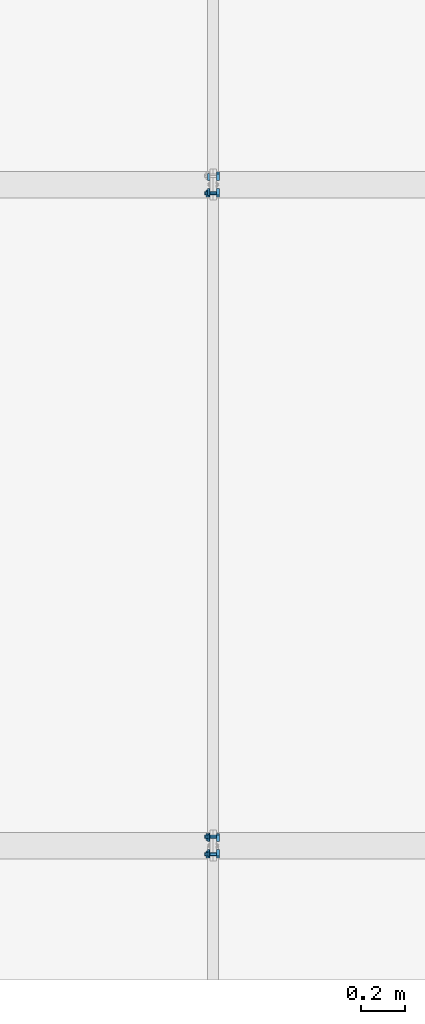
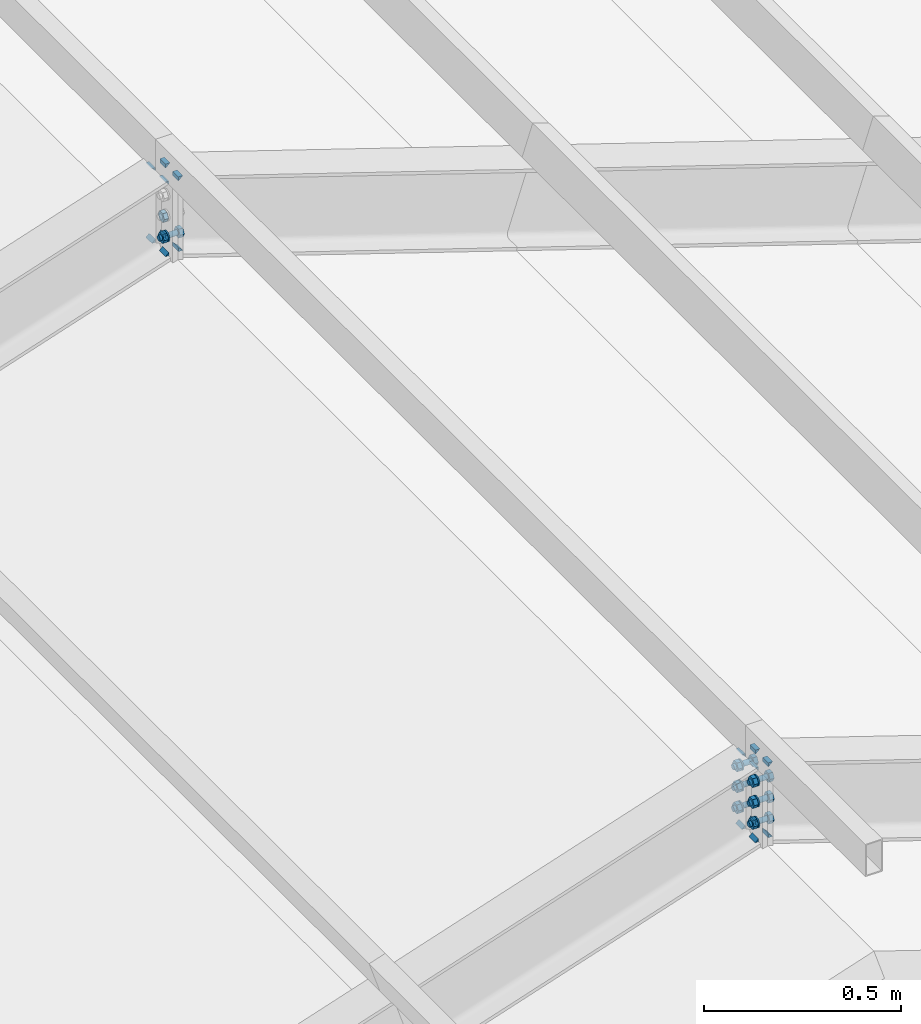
# One storey, part 26 of 53: 29 mechanical fasteners, 24 fasteners.
"""IFC4 building model written with IfcOpenShell, lengths in metres."""

from ifc_helpers import new_model, si_unit, frame, origin_with_axes, place, context, project, spatial, polyline, outline, extrude, type_object, element, save


model = new_model("IFC4")

# Units and contexts
model_context = context("Model", 3, precision=1e-05, world=origin_with_axes())
ifc_project = project(units=[si_unit("LENGTHUNIT", "METRE"), si_unit("AREAUNIT", "SQUARE_METRE"), si_unit("VOLUMEUNIT", "CUBIC_METRE"), si_unit("MASSUNIT", "GRAM", prefix="KILO"), si_unit("TIMEUNIT", "SECOND"), si_unit("PLANEANGLEUNIT", "RADIAN"), si_unit("SOLIDANGLEUNIT", "STERADIAN"), si_unit("THERMODYNAMICTEMPERATUREUNIT", "DEGREE_CELSIUS")], contexts=[model_context])

# Site, building, storey
placement_1 = place(None, origin_with_axes())
site = spatial("IfcSite", under=ifc_project, at=placement_1, Name="Italia", CompositionType="ELEMENT")
building = spatial("IfcBuilding", under=site, at=placement_1, Name="Capannone", CompositionType="ELEMENT")
storey_placement = place(None, frame((0.0, 0.0, 5.550000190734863), z_axis=(0.0, 0.0, 1.0), x_axis=(1.0, 0.0, 0.0)))
storey = spatial("IfcBuildingStorey", under=building, at=storey_placement, Name="Storey 1", CompositionType="ELEMENT", Elevation=5.550000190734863)

# Fasteners
fastener_type_1 = type_object("IfcFastenerType", Name="Collegamenti -1142_-1128 -1143_-1130 -1144_-1132 -1145_-1134 -1146_-1136 -1147_-1138", PredefinedType="WELD")
placement_2 = place(placement_1, origin_with_axes())
fastener_1_placement = place(placement_2, origin_with_axes())
element("IfcFastener", 1, at=fastener_1_placement, inside=storey, type_object=fastener_type_1, Name="Collegamenti -1142_-1128 -1143_-1130 -1144_-1132 -1145_-1134 -1146_-1136 -1147_-1138", context=model_context, shape_type="SweptSolid", body=[
    extrude(outline(polyline([(0.0, 0.0), (-0.0131736, 0.0127773), (0.0, 0.0127773), (0.0, 0.0)])), frame((7.01495, -0.04705, 8.07465), z_axis=(0.0, 1.0, 0.0), x_axis=(-1.0, 0.0, 0.0)), (0.0, 0.0, 1.0), 0.029),
])
fastener_type_2 = type_object("IfcFastenerType", Name="Collegamenti -1142_-1128 -1143_-1130 -1144_-1132 -1145_-1134 -1146_-1136 -1147_-1138", PredefinedType="WELD")
fastener_2_placement = place(placement_2, origin_with_axes())
element("IfcFastener", 2, at=fastener_2_placement, inside=storey, type_object=fastener_type_2, Name="Collegamenti -1142_-1128 -1143_-1130 -1144_-1132 -1145_-1134 -1146_-1136 -1147_-1138", context=model_context, shape_type="SweptSolid", body=[
    extrude(outline(polyline([(0.0, 0.0), (0.0131736, -0.0127783), (0.0, -0.0127783), (0.0, 0.0)])), frame((7.01495, -0.01805, 7.86811), z_axis=(0.0, -1.0, 0.0), x_axis=(1.0, 0.0, 0.0)), (0.0, 0.0, 1.0), 0.029),
])
fastener_type_3 = type_object("IfcFastenerType", Name="Collegamenti -1142_-1128 -1143_-1130 -1144_-1132 -1145_-1134 -1146_-1136 -1147_-1138", PredefinedType="WELD")
fastener_3_placement = place(placement_2, origin_with_axes())
element("IfcFastener", 3, at=fastener_3_placement, inside=storey, type_object=fastener_type_3, Name="Collegamenti -1142_-1128 -1143_-1130 -1144_-1132 -1145_-1134 -1146_-1136 -1147_-1138", context=model_context, shape_type="SweptSolid", body=[
    extrude(outline(polyline([(0.0, 0.0), (0.0131736, -0.0127783), (0.0, -0.0127783), (0.0, 0.0)])), frame((7.01495, 0.04705, 7.86811), z_axis=(0.0, -1.0, 0.0), x_axis=(1.0, 0.0, 0.0)), (0.0, 0.0, 1.0), 0.029),
])
fastener_type_4 = type_object("IfcFastenerType", Name="Collegamenti -1142_-1128 -1143_-1130 -1144_-1132 -1145_-1134 -1146_-1136 -1147_-1138", PredefinedType="WELD")
fastener_4_placement = place(placement_2, origin_with_axes())
element("IfcFastener", 4, at=fastener_4_placement, inside=storey, type_object=fastener_type_4, Name="Collegamenti -1142_-1128 -1143_-1130 -1144_-1132 -1145_-1134 -1146_-1136 -1147_-1138", context=model_context, shape_type="SweptSolid", body=[
    extrude(outline(polyline([(0.0, 0.0), (-0.0131736, 0.0127773), (0.0, 0.0127773), (0.0, 0.0)])), frame((7.01495, 0.01805, 8.07465), z_axis=(0.0, 1.0, 0.0), x_axis=(-1.0, 0.0, 0.0)), (0.0, 0.0, 1.0), 0.029),
])
fastener_type_5 = type_object("IfcFastenerType", Name="Collegamenti -1142_-1128 -1143_-1130 -1144_-1132 -1145_-1134 -1146_-1136 -1147_-1138", PredefinedType="WELD")
fastener_5_placement = place(placement_2, origin_with_axes())
element("IfcFastener", 5, at=fastener_5_placement, inside=storey, type_object=fastener_type_5, Name="Collegamenti -1142_-1128 -1143_-1130 -1144_-1132 -1145_-1134 -1146_-1136 -1147_-1138", context=model_context, shape_type="SweptSolid", body=[
    extrude(outline(polyline([(0.0, 0.0), (-0.0131736, 0.0127773), (0.0, 0.0127773), (0.0, 0.0)])), frame((7.01495, -0.04705, 8.07465), z_axis=(0.0, 1.0, 0.0), x_axis=(-1.0, 0.0, 0.0)), (0.0, 0.0, 1.0), 0.029),
])
fastener_type_6 = type_object("IfcFastenerType", Name="Collegamenti -1142_-1128 -1143_-1130 -1144_-1132 -1145_-1134 -1146_-1136 -1147_-1138", PredefinedType="WELD")
fastener_6_placement = place(placement_2, origin_with_axes())
element("IfcFastener", 6, at=fastener_6_placement, inside=storey, type_object=fastener_type_6, Name="Collegamenti -1142_-1128 -1143_-1130 -1144_-1132 -1145_-1134 -1146_-1136 -1147_-1138", context=model_context, shape_type="SweptSolid", body=[
    extrude(outline(polyline([(0.0, 0.0), (0.0131736, -0.0127783), (0.0, -0.0127783), (0.0, 0.0)])), frame((7.01495, -0.01805, 7.86811), z_axis=(0.0, -1.0, 0.0), x_axis=(1.0, 0.0, 0.0)), (0.0, 0.0, 1.0), 0.029),
])
fastener_type_7 = type_object("IfcFastenerType", Name="Collegamenti -1142_-1128 -1143_-1130 -1144_-1132 -1145_-1134 -1146_-1136 -1147_-1138", PredefinedType="WELD")
fastener_7_placement = place(placement_2, origin_with_axes())
element("IfcFastener", 7, at=fastener_7_placement, inside=storey, type_object=fastener_type_7, Name="Collegamenti -1142_-1128 -1143_-1130 -1144_-1132 -1145_-1134 -1146_-1136 -1147_-1138", context=model_context, shape_type="SweptSolid", body=[
    extrude(outline(polyline([(0.0, 0.0), (0.0131736, -0.0127783), (0.0, -0.0127783), (0.0, 0.0)])), frame((7.01495, 0.04705, 7.86811), z_axis=(0.0, -1.0, 0.0), x_axis=(1.0, 0.0, 0.0)), (0.0, 0.0, 1.0), 0.029),
])
fastener_type_8 = type_object("IfcFastenerType", Name="Collegamenti -1142_-1128 -1143_-1130 -1144_-1132 -1145_-1134 -1146_-1136 -1147_-1138", PredefinedType="WELD")
fastener_8_placement = place(placement_2, origin_with_axes())
element("IfcFastener", 8, at=fastener_8_placement, inside=storey, type_object=fastener_type_8, Name="Collegamenti -1142_-1128 -1143_-1130 -1144_-1132 -1145_-1134 -1146_-1136 -1147_-1138", context=model_context, shape_type="SweptSolid", body=[
    extrude(outline(polyline([(0.0, 0.0), (-0.0131736, 0.0127773), (0.0, 0.0127773), (0.0, 0.0)])), frame((7.01495, 0.01805, 8.07465), z_axis=(0.0, 1.0, 0.0), x_axis=(-1.0, 0.0, 0.0)), (0.0, 0.0, 1.0), 0.029),
])
fastener_type_9 = type_object("IfcFastenerType", Name="Collegamenti -1142_-1128 -1143_-1130 -1144_-1132 -1145_-1134 -1146_-1136 -1147_-1138", PredefinedType="WELD")
fastener_9_placement = place(placement_2, origin_with_axes())
element("IfcFastener", 9, at=fastener_9_placement, inside=storey, type_object=fastener_type_9, Name="Collegamenti -1142_-1128 -1143_-1130 -1144_-1132 -1145_-1134 -1146_-1136 -1147_-1138", context=model_context, shape_type="SweptSolid", body=[
    extrude(outline(polyline([(0.0, 0.0), (-0.00982666, -0.00953197), (0.0, -0.00953197), (0.0, 0.0)])), frame((6.98495, 0.05005, 7.86497), z_axis=(0.0, -1.0, 0.0), x_axis=(1.0, 0.0, 0.0)), (0.0, 0.0, 1.0), 0.032),
])
fastener_type_10 = type_object("IfcFastenerType", Name="Collegamenti -1142_-1128 -1143_-1130 -1144_-1132 -1145_-1134 -1146_-1136 -1147_-1138", PredefinedType="WELD")
fastener_10_placement = place(placement_2, origin_with_axes())
element("IfcFastener", 10, at=fastener_10_placement, inside=storey, type_object=fastener_type_10, Name="Collegamenti -1142_-1128 -1143_-1130 -1144_-1132 -1145_-1134 -1146_-1136 -1147_-1138", context=model_context, shape_type="SweptSolid", body=[
    extrude(outline(polyline([(0.0, 0.0), (0.00982666, 0.00953197), (0.0, 0.00953197), (0.0, 0.0)])), frame((6.98495, 0.01805, 8.0778), z_axis=(0.0, 1.0, 0.0), x_axis=(-1.0, 0.0, 0.0)), (0.0, 0.0, 1.0), 0.032),
])
fastener_type_11 = type_object("IfcFastenerType", Name="Collegamenti -1142_-1128 -1143_-1130 -1144_-1132 -1145_-1134 -1146_-1136 -1147_-1138", PredefinedType="WELD")
fastener_11_placement = place(placement_2, origin_with_axes())
element("IfcFastener", 11, at=fastener_11_placement, inside=storey, type_object=fastener_type_11, Name="Collegamenti -1142_-1128 -1143_-1130 -1144_-1132 -1145_-1134 -1146_-1136 -1147_-1138", context=model_context, shape_type="SweptSolid", body=[
    extrude(outline(polyline([(0.0, 0.0), (0.00982666, 0.00953197), (0.0, 0.00953197), (0.0, 0.0)])), frame((6.98495, -0.05005, 8.0778), z_axis=(0.0, 1.0, 0.0), x_axis=(-1.0, 0.0, 0.0)), (0.0, 0.0, 1.0), 0.032),
])
fastener_type_12 = type_object("IfcFastenerType", Name="Collegamenti -1142_-1128 -1143_-1130 -1144_-1132 -1145_-1134 -1146_-1136 -1147_-1138", PredefinedType="WELD")
fastener_12_placement = place(placement_2, origin_with_axes())
element("IfcFastener", 12, at=fastener_12_placement, inside=storey, type_object=fastener_type_12, Name="Collegamenti -1142_-1128 -1143_-1130 -1144_-1132 -1145_-1134 -1146_-1136 -1147_-1138", context=model_context, shape_type="SweptSolid", body=[
    extrude(outline(polyline([(0.0, 0.0), (-0.00982666, -0.00953197), (0.0, -0.00953197), (0.0, 0.0)])), frame((6.98495, -0.01805, 7.86497), z_axis=(0.0, -1.0, 0.0), x_axis=(1.0, 0.0, 0.0)), (0.0, 0.0, 1.0), 0.032),
])

# Mechanical fasteners
mechanical_fastener_type_1 = type_object("IfcMechanicalFastenerType", Name="Collegamenti -1142_-1128 -1143_-1130 -1144_-1132 -1145_-1134 -1146_-1136 -1147_-1138", PredefinedType="BOLT")
mechanical_fastener_1_placement = place(placement_2, origin_with_axes())
element("IfcMechanicalFastener", 13, at=mechanical_fastener_1_placement, inside=storey, type_object=mechanical_fastener_type_1, Name="Collegamenti -1142_-1128 -1143_-1130 -1144_-1132 -1145_-1134 -1146_-1136 -1147_-1138", NominalDiameter=0.016, context=model_context, shape_type="SweptSolid", body=[
    extrude(outline(polyline([(0.0, 0.0), (-0.016, 0.0), (-0.024, 0.0138564), (-0.016, 0.0277128), (0.0, 0.0277128), (0.008, 0.0138564), (0.0, 0.0)])), frame((7.015, -0.032, 7.89746), z_axis=(1.0, 0.0, 0.0), x_axis=(0.0, 1.0, 0.0)), (0.0, 0.0, 1.0), 0.0128002),
])
mechanical_fastener_type_2 = type_object("IfcMechanicalFastenerType", Name="Collegamenti -1142_-1128 -1143_-1130 -1144_-1132 -1145_-1134 -1146_-1136 -1147_-1138", PredefinedType="BOLT")
mechanical_fastener_2_placement = place(placement_2, origin_with_axes())
element("IfcMechanicalFastener", 14, at=mechanical_fastener_2_placement, inside=storey, type_object=mechanical_fastener_type_2, Name="Collegamenti -1142_-1128 -1143_-1130 -1144_-1132 -1145_-1134 -1146_-1136 -1147_-1138", NominalDiameter=0.016, context=model_context, shape_type="SweptSolid", body=[
    extrude(outline(polyline([(0.0, 0.0), (-0.000272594, -0.00207043), (-0.0010718, -0.00400019), (-0.00234315, -0.00565672), (-0.004, -0.00692797), (-0.00592945, -0.00772762), (-0.008, -0.0079999), (-0.0100706, -0.00772762), (-0.012, -0.00692797), (-0.0136569, -0.00565672), (-0.0149282, -0.00400019), (-0.0157274, -0.00207043), (-0.016, 0.0), (-0.0157274, 0.00207043), (-0.0149282, 0.00400019), (-0.0136569, 0.00565672), (-0.012, 0.00692797), (-0.0100706, 0.00772762), (-0.008, 0.0079999), (-0.00592945, 0.00772762), (-0.004, 0.00692797), (-0.00234314, 0.00565672), (-0.0010718, 0.00400019), (-0.000272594, 0.00207043), (0.0, 0.0)])), frame((6.961, -0.032, 7.91131), z_axis=(1.0, 0.0, 0.0), x_axis=(0.0, 1.0, 0.0)), (0.0, 0.0, 1.0), 0.0539999),
])
mechanical_fastener_type_3 = type_object("IfcMechanicalFastenerType", Name="Collegamenti -1142_-1128 -1143_-1130 -1144_-1132 -1145_-1134 -1146_-1136 -1147_-1138", PredefinedType="BOLT")
mechanical_fastener_3_placement = place(placement_2, origin_with_axes())
element("IfcMechanicalFastener", 15, at=mechanical_fastener_3_placement, inside=storey, type_object=mechanical_fastener_type_3, Name="Collegamenti -1142_-1128 -1143_-1130 -1144_-1132 -1145_-1134 -1146_-1136 -1147_-1138", NominalDiameter=0.016, context=model_context, shape_type="SweptSolid", body=[
    extrude(outline(polyline([(0.0, 0.0), (-0.016, 0.0), (-0.024, 0.0138564), (-0.016, 0.0277128), (0.0, 0.0277128), (0.008, 0.0138564), (0.0, 0.0)])), frame((6.9682, -0.032, 7.89746), z_axis=(1.0, 0.0, 0.0), x_axis=(0.0, 1.0, 0.0)), (0.0, 0.0, 1.0), 0.0127997),
])
mechanical_fastener_type_4 = type_object("IfcMechanicalFastenerType", Name="Collegamenti -1142_-1128 -1143_-1130 -1144_-1132 -1145_-1134 -1146_-1136 -1147_-1138", PredefinedType="BOLT")
mechanical_fastener_4_placement = place(placement_2, origin_with_axes())
element("IfcMechanicalFastener", 16, at=mechanical_fastener_4_placement, inside=storey, type_object=mechanical_fastener_type_4, Name="Collegamenti -1142_-1128 -1143_-1130 -1144_-1132 -1145_-1134 -1146_-1136 -1147_-1138", NominalDiameter=0.032, context=model_context, shape_type="SweptSolid", body=[
    extrude(outline(polyline([(0.0, 0.0), (-0.000545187, -0.00414133), (-0.00214359, -0.0079999), (-0.00468629, -0.0113139), (-0.008, -0.0138564), (-0.0118589, -0.0154548), (-0.016, -0.0159998), (-0.0201411, -0.0154548), (-0.024, -0.0138564), (-0.0273137, -0.0113139), (-0.0298564, -0.0079999), (-0.0314548, -0.00414133), (-0.032, 0.0), (-0.0314548, 0.00414133), (-0.0298564, 0.0079999), (-0.0273137, 0.0113139), (-0.024, 0.0138564), (-0.0201411, 0.0154548), (-0.016, 0.0159998), (-0.0118589, 0.0154548), (-0.008, 0.0138564), (-0.00468629, 0.0113139), (-0.00214359, 0.0079999), (-0.000545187, 0.00414133), (0.0, 0.0)])), frame((6.981, -0.024, 7.91131), z_axis=(1.0, 0.0, 0.0), x_axis=(0.0, 1.0, 0.0)), (0.0, 0.0, 1.0), 0.00400019),
])
mechanical_fastener_type_5 = type_object("IfcMechanicalFastenerType", Name="Collegamenti -1142_-1128 -1143_-1130 -1144_-1132 -1145_-1134 -1146_-1136 -1147_-1138", PredefinedType="BOLT")
mechanical_fastener_5_placement = place(placement_2, origin_with_axes())
element("IfcMechanicalFastener", 17, at=mechanical_fastener_5_placement, inside=storey, type_object=mechanical_fastener_type_5, Name="Collegamenti -1142_-1128 -1143_-1130 -1144_-1132 -1145_-1134 -1146_-1136 -1147_-1138", NominalDiameter=0.016, context=model_context, shape_type="SweptSolid", body=[
    extrude(outline(polyline([(0.0, 0.0), (-0.016, 0.0), (-0.024, 0.0138564), (-0.016, 0.0277128), (0.0, 0.0277128), (0.008, 0.0138564), (0.0, 0.0)])), frame((7.015, 0.048, 7.89746), z_axis=(1.0, 0.0, 0.0), x_axis=(0.0, 1.0, 0.0)), (0.0, 0.0, 1.0), 0.0128002),
])
mechanical_fastener_type_6 = type_object("IfcMechanicalFastenerType", Name="Collegamenti -1142_-1128 -1143_-1130 -1144_-1132 -1145_-1134 -1146_-1136 -1147_-1138", PredefinedType="BOLT")
mechanical_fastener_6_placement = place(placement_2, origin_with_axes())
element("IfcMechanicalFastener", 18, at=mechanical_fastener_6_placement, inside=storey, type_object=mechanical_fastener_type_6, Name="Collegamenti -1142_-1128 -1143_-1130 -1144_-1132 -1145_-1134 -1146_-1136 -1147_-1138", NominalDiameter=0.016, context=model_context, shape_type="SweptSolid", body=[
    extrude(outline(polyline([(0.0, 0.0), (-0.000272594, -0.00207043), (-0.0010718, -0.00400019), (-0.00234315, -0.00565672), (-0.004, -0.00692797), (-0.00592945, -0.00772762), (-0.008, -0.0079999), (-0.0100706, -0.00772762), (-0.012, -0.00692797), (-0.0136569, -0.00565672), (-0.0149282, -0.00400019), (-0.0157274, -0.00207043), (-0.016, 0.0), (-0.0157274, 0.00207043), (-0.0149282, 0.00400019), (-0.0136569, 0.00565672), (-0.012, 0.00692797), (-0.0100706, 0.00772762), (-0.008, 0.0079999), (-0.00592945, 0.00772762), (-0.004, 0.00692797), (-0.00234314, 0.00565672), (-0.0010718, 0.00400019), (-0.000272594, 0.00207043), (0.0, 0.0)])), frame((6.961, 0.048, 7.91131), z_axis=(1.0, 0.0, 0.0), x_axis=(0.0, 1.0, 0.0)), (0.0, 0.0, 1.0), 0.0539999),
])
mechanical_fastener_type_7 = type_object("IfcMechanicalFastenerType", Name="Collegamenti -1142_-1128 -1143_-1130 -1144_-1132 -1145_-1134 -1146_-1136 -1147_-1138", PredefinedType="BOLT")
mechanical_fastener_7_placement = place(placement_2, origin_with_axes())
element("IfcMechanicalFastener", 19, at=mechanical_fastener_7_placement, inside=storey, type_object=mechanical_fastener_type_7, Name="Collegamenti -1142_-1128 -1143_-1130 -1144_-1132 -1145_-1134 -1146_-1136 -1147_-1138", NominalDiameter=0.016, context=model_context, shape_type="SweptSolid", body=[
    extrude(outline(polyline([(0.0, 0.0), (-0.016, 0.0), (-0.024, 0.0138564), (-0.016, 0.0277128), (0.0, 0.0277128), (0.008, 0.0138564), (0.0, 0.0)])), frame((6.9682, 0.048, 7.89746), z_axis=(1.0, 0.0, 0.0), x_axis=(0.0, 1.0, 0.0)), (0.0, 0.0, 1.0), 0.0127997),
])
mechanical_fastener_type_8 = type_object("IfcMechanicalFastenerType", Name="Collegamenti -1142_-1128 -1143_-1130 -1144_-1132 -1145_-1134 -1146_-1136 -1147_-1138", PredefinedType="BOLT")
mechanical_fastener_8_placement = place(placement_2, origin_with_axes())
element("IfcMechanicalFastener", 20, at=mechanical_fastener_8_placement, inside=storey, type_object=mechanical_fastener_type_8, Name="Collegamenti -1142_-1128 -1143_-1130 -1144_-1132 -1145_-1134 -1146_-1136 -1147_-1138", NominalDiameter=0.032, context=model_context, shape_type="SweptSolid", body=[
    extrude(outline(polyline([(0.0, 0.0), (-0.000545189, -0.00414133), (-0.0021436, -0.0079999), (-0.0046863, -0.0113139), (-0.008, -0.0138564), (-0.0118589, -0.0154548), (-0.016, -0.0159998), (-0.0201411, -0.0154548), (-0.024, -0.0138564), (-0.0273137, -0.0113139), (-0.0298564, -0.0079999), (-0.0314548, -0.00414133), (-0.032, 0.0), (-0.0314548, 0.00414133), (-0.0298564, 0.0079999), (-0.0273137, 0.0113139), (-0.024, 0.0138564), (-0.0201411, 0.0154548), (-0.016, 0.0159998), (-0.0118589, 0.0154548), (-0.008, 0.0138564), (-0.00468629, 0.0113139), (-0.00214359, 0.0079999), (-0.000545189, 0.00414133), (0.0, 0.0)])), frame((6.981, 0.056, 7.91131), z_axis=(1.0, 0.0, 0.0), x_axis=(0.0, 1.0, 0.0)), (0.0, 0.0, 1.0), 0.00400019),
])
mechanical_fastener_type_9 = type_object("IfcMechanicalFastenerType", Name="Collegamenti -1142_-1128 -1143_-1130 -1144_-1132 -1145_-1134 -1146_-1136 -1147_-1138", PredefinedType="BOLT")
mechanical_fastener_9_placement = place(placement_2, origin_with_axes())
element("IfcMechanicalFastener", 21, at=mechanical_fastener_9_placement, inside=storey, type_object=mechanical_fastener_type_9, Name="Collegamenti -1142_-1128 -1143_-1130 -1144_-1132 -1145_-1134 -1146_-1136 -1147_-1138", NominalDiameter=0.016, context=model_context, shape_type="SweptSolid", body=[
    extrude(outline(polyline([(0.0, 0.0), (-0.016, 0.0), (-0.024, 0.0138564), (-0.016, 0.0277128), (0.0, 0.0277128), (0.008, 0.0138564), (0.0, 0.0)])), frame((7.015, -0.032, 7.96246), z_axis=(1.0, 0.0, 0.0), x_axis=(0.0, 1.0, 0.0)), (0.0, 0.0, 1.0), 0.0128002),
])
mechanical_fastener_type_10 = type_object("IfcMechanicalFastenerType", Name="Collegamenti -1142_-1128 -1143_-1130 -1144_-1132 -1145_-1134 -1146_-1136 -1147_-1138", PredefinedType="BOLT")
mechanical_fastener_10_placement = place(placement_2, origin_with_axes())
element("IfcMechanicalFastener", 22, at=mechanical_fastener_10_placement, inside=storey, type_object=mechanical_fastener_type_10, Name="Collegamenti -1142_-1128 -1143_-1130 -1144_-1132 -1145_-1134 -1146_-1136 -1147_-1138", NominalDiameter=0.016, context=model_context, shape_type="SweptSolid", body=[
    extrude(outline(polyline([(0.0, 0.0), (-0.000272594, -0.00207043), (-0.0010718, -0.00400019), (-0.00234315, -0.00565672), (-0.004, -0.00692797), (-0.00592945, -0.00772762), (-0.008, -0.0079999), (-0.0100706, -0.00772762), (-0.012, -0.00692797), (-0.0136569, -0.00565672), (-0.0149282, -0.00400019), (-0.0157274, -0.00207043), (-0.016, 0.0), (-0.0157274, 0.00207043), (-0.0149282, 0.00400019), (-0.0136569, 0.00565672), (-0.012, 0.00692797), (-0.0100706, 0.00772762), (-0.008, 0.0079999), (-0.00592945, 0.00772762), (-0.004, 0.00692797), (-0.00234314, 0.00565672), (-0.0010718, 0.00400019), (-0.000272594, 0.00207043), (0.0, 0.0)])), frame((6.961, -0.032, 7.97631), z_axis=(1.0, 0.0, 0.0), x_axis=(0.0, 1.0, 0.0)), (0.0, 0.0, 1.0), 0.0539999),
])
mechanical_fastener_type_11 = type_object("IfcMechanicalFastenerType", Name="Collegamenti -1142_-1128 -1143_-1130 -1144_-1132 -1145_-1134 -1146_-1136 -1147_-1138", PredefinedType="BOLT")
mechanical_fastener_11_placement = place(placement_2, origin_with_axes())
element("IfcMechanicalFastener", 23, at=mechanical_fastener_11_placement, inside=storey, type_object=mechanical_fastener_type_11, Name="Collegamenti -1142_-1128 -1143_-1130 -1144_-1132 -1145_-1134 -1146_-1136 -1147_-1138", NominalDiameter=0.016, context=model_context, shape_type="SweptSolid", body=[
    extrude(outline(polyline([(0.0, 0.0), (-0.016, 0.0), (-0.024, 0.0138564), (-0.016, 0.0277128), (0.0, 0.0277128), (0.008, 0.0138564), (0.0, 0.0)])), frame((6.9682, -0.032, 7.96246), z_axis=(1.0, 0.0, 0.0), x_axis=(0.0, 1.0, 0.0)), (0.0, 0.0, 1.0), 0.0127997),
])
mechanical_fastener_type_12 = type_object("IfcMechanicalFastenerType", Name="Collegamenti -1142_-1128 -1143_-1130 -1144_-1132 -1145_-1134 -1146_-1136 -1147_-1138", PredefinedType="BOLT")
mechanical_fastener_12_placement = place(placement_2, origin_with_axes())
element("IfcMechanicalFastener", 24, at=mechanical_fastener_12_placement, inside=storey, type_object=mechanical_fastener_type_12, Name="Collegamenti -1142_-1128 -1143_-1130 -1144_-1132 -1145_-1134 -1146_-1136 -1147_-1138", NominalDiameter=0.032, context=model_context, shape_type="SweptSolid", body=[
    extrude(outline(polyline([(0.0, 0.0), (-0.000545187, -0.00414133), (-0.00214359, -0.0079999), (-0.00468629, -0.0113139), (-0.008, -0.0138564), (-0.0118589, -0.0154548), (-0.016, -0.0159998), (-0.0201411, -0.0154548), (-0.024, -0.0138564), (-0.0273137, -0.0113139), (-0.0298564, -0.0079999), (-0.0314548, -0.00414133), (-0.032, 0.0), (-0.0314548, 0.00414133), (-0.0298564, 0.0079999), (-0.0273137, 0.0113139), (-0.024, 0.0138564), (-0.0201411, 0.0154548), (-0.016, 0.0159998), (-0.0118589, 0.0154548), (-0.008, 0.0138564), (-0.00468629, 0.0113139), (-0.00214359, 0.0079999), (-0.000545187, 0.00414133), (0.0, 0.0)])), frame((6.981, -0.024, 7.97631), z_axis=(1.0, 0.0, 0.0), x_axis=(0.0, 1.0, 0.0)), (0.0, 0.0, 1.0), 0.00400019),
])
mechanical_fastener_type_13 = type_object("IfcMechanicalFastenerType", Name="Collegamenti -1142_-1128 -1143_-1130 -1144_-1132 -1145_-1134 -1146_-1136 -1147_-1138", PredefinedType="BOLT")
mechanical_fastener_13_placement = place(placement_2, origin_with_axes())
element("IfcMechanicalFastener", 25, at=mechanical_fastener_13_placement, inside=storey, type_object=mechanical_fastener_type_13, Name="Collegamenti -1142_-1128 -1143_-1130 -1144_-1132 -1145_-1134 -1146_-1136 -1147_-1138", NominalDiameter=0.016, context=model_context, shape_type="SweptSolid", body=[
    extrude(outline(polyline([(0.0, 0.0), (-0.016, 0.0), (-0.024, 0.0138564), (-0.016, 0.0277128), (0.0, 0.0277128), (0.008, 0.0138564), (0.0, 0.0)])), frame((7.015, 0.048, 7.96246), z_axis=(1.0, 0.0, 0.0), x_axis=(0.0, 1.0, 0.0)), (0.0, 0.0, 1.0), 0.0128002),
])
mechanical_fastener_type_14 = type_object("IfcMechanicalFastenerType", Name="Collegamenti -1142_-1128 -1143_-1130 -1144_-1132 -1145_-1134 -1146_-1136 -1147_-1138", PredefinedType="BOLT")
mechanical_fastener_14_placement = place(placement_2, origin_with_axes())
element("IfcMechanicalFastener", 26, at=mechanical_fastener_14_placement, inside=storey, type_object=mechanical_fastener_type_14, Name="Collegamenti -1142_-1128 -1143_-1130 -1144_-1132 -1145_-1134 -1146_-1136 -1147_-1138", NominalDiameter=0.016, context=model_context, shape_type="SweptSolid", body=[
    extrude(outline(polyline([(0.0, 0.0), (-0.000272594, -0.00207043), (-0.0010718, -0.00400019), (-0.00234315, -0.00565672), (-0.004, -0.00692797), (-0.00592945, -0.00772762), (-0.008, -0.0079999), (-0.0100706, -0.00772762), (-0.012, -0.00692797), (-0.0136569, -0.00565672), (-0.0149282, -0.00400019), (-0.0157274, -0.00207043), (-0.016, 0.0), (-0.0157274, 0.00207043), (-0.0149282, 0.00400019), (-0.0136569, 0.00565672), (-0.012, 0.00692797), (-0.0100706, 0.00772762), (-0.008, 0.0079999), (-0.00592945, 0.00772762), (-0.004, 0.00692797), (-0.00234314, 0.00565672), (-0.0010718, 0.00400019), (-0.000272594, 0.00207043), (0.0, 0.0)])), frame((6.961, 0.048, 7.97631), z_axis=(1.0, 0.0, 0.0), x_axis=(0.0, 1.0, 0.0)), (0.0, 0.0, 1.0), 0.0539999),
])
mechanical_fastener_type_15 = type_object("IfcMechanicalFastenerType", Name="Collegamenti -1142_-1128 -1143_-1130 -1144_-1132 -1145_-1134 -1146_-1136 -1147_-1138", PredefinedType="BOLT")
mechanical_fastener_15_placement = place(placement_2, origin_with_axes())
element("IfcMechanicalFastener", 27, at=mechanical_fastener_15_placement, inside=storey, type_object=mechanical_fastener_type_15, Name="Collegamenti -1142_-1128 -1143_-1130 -1144_-1132 -1145_-1134 -1146_-1136 -1147_-1138", NominalDiameter=0.016, context=model_context, shape_type="SweptSolid", body=[
    extrude(outline(polyline([(0.0, 0.0), (-0.016, 0.0), (-0.024, 0.0138564), (-0.016, 0.0277128), (0.0, 0.0277128), (0.008, 0.0138564), (0.0, 0.0)])), frame((6.9682, 0.048, 7.96246), z_axis=(1.0, 0.0, 0.0), x_axis=(0.0, 1.0, 0.0)), (0.0, 0.0, 1.0), 0.0127997),
])
mechanical_fastener_type_16 = type_object("IfcMechanicalFastenerType", Name="Collegamenti -1142_-1128 -1143_-1130 -1144_-1132 -1145_-1134 -1146_-1136 -1147_-1138", PredefinedType="BOLT")
mechanical_fastener_16_placement = place(placement_2, origin_with_axes())
element("IfcMechanicalFastener", 28, at=mechanical_fastener_16_placement, inside=storey, type_object=mechanical_fastener_type_16, Name="Collegamenti -1142_-1128 -1143_-1130 -1144_-1132 -1145_-1134 -1146_-1136 -1147_-1138", NominalDiameter=0.032, context=model_context, shape_type="SweptSolid", body=[
    extrude(outline(polyline([(0.0, 0.0), (-0.000545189, -0.00414133), (-0.0021436, -0.0079999), (-0.0046863, -0.0113139), (-0.008, -0.0138564), (-0.0118589, -0.0154548), (-0.016, -0.0159998), (-0.0201411, -0.0154548), (-0.024, -0.0138564), (-0.0273137, -0.0113139), (-0.0298564, -0.0079999), (-0.0314548, -0.00414133), (-0.032, 0.0), (-0.0314548, 0.00414133), (-0.0298564, 0.0079999), (-0.0273137, 0.0113139), (-0.024, 0.0138564), (-0.0201411, 0.0154548), (-0.016, 0.0159998), (-0.0118589, 0.0154548), (-0.008, 0.0138564), (-0.00468629, 0.0113139), (-0.00214359, 0.0079999), (-0.000545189, 0.00414133), (0.0, 0.0)])), frame((6.981, 0.056, 7.97631), z_axis=(1.0, 0.0, 0.0), x_axis=(0.0, 1.0, 0.0)), (0.0, 0.0, 1.0), 0.00400019),
])
mechanical_fastener_type_17 = type_object("IfcMechanicalFastenerType", Name="Collegamenti -1142_-1128 -1143_-1130 -1144_-1132 -1145_-1134 -1146_-1136 -1147_-1138", PredefinedType="BOLT")
mechanical_fastener_17_placement = place(placement_2, origin_with_axes())
element("IfcMechanicalFastener", 29, at=mechanical_fastener_17_placement, inside=storey, type_object=mechanical_fastener_type_17, Name="Collegamenti -1142_-1128 -1143_-1130 -1144_-1132 -1145_-1134 -1146_-1136 -1147_-1138", NominalDiameter=0.0159996, context=model_context, shape_type="SweptSolid", body=[
    extrude(outline(polyline([(0.0, 0.0), (-0.016, 0.0), (-0.024, 0.0138559), (-0.016, 0.0277128), (0.0, 0.0277128), (0.008, 0.0138559), (0.0, 0.0)])), frame((7.015, -0.032, 8.02746), z_axis=(1.0, 0.0, 0.0), x_axis=(0.0, 1.0, 0.0)), (0.0, 0.0, 1.0), 0.0128002),
])
mechanical_fastener_type_18 = type_object("IfcMechanicalFastenerType", Name="Collegamenti -1142_-1128 -1143_-1130 -1144_-1132 -1145_-1134 -1146_-1136 -1147_-1138", PredefinedType="BOLT")
mechanical_fastener_18_placement = place(placement_2, origin_with_axes())
element("IfcMechanicalFastener", 30, at=mechanical_fastener_18_placement, inside=storey, type_object=mechanical_fastener_type_18, Name="Collegamenti -1142_-1128 -1143_-1130 -1144_-1132 -1145_-1134 -1146_-1136 -1147_-1138", NominalDiameter=0.016, context=model_context, shape_type="SweptSolid", body=[
    extrude(outline(polyline([(0.0, 0.0), (-0.000272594, -0.00207043), (-0.0010718, -0.00399971), (-0.00234315, -0.0056572), (-0.004, -0.00692844), (-0.00592945, -0.00772762), (-0.008, -0.00800037), (-0.0100706, -0.00772762), (-0.012, -0.00692844), (-0.0136569, -0.0056572), (-0.0149282, -0.00399971), (-0.0157274, -0.00207043), (-0.016, 0.0), (-0.0157274, 0.00207043), (-0.0149282, 0.00399971), (-0.0136569, 0.0056572), (-0.012, 0.00692844), (-0.0100706, 0.00772762), (-0.008, 0.00800037), (-0.00592945, 0.00772762), (-0.004, 0.00692844), (-0.00234314, 0.0056572), (-0.0010718, 0.00399971), (-0.000272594, 0.00207043), (0.0, 0.0)])), frame((6.961, -0.032, 8.04131), z_axis=(1.0, 0.0, 0.0), x_axis=(0.0, 1.0, 0.0)), (0.0, 0.0, 1.0), 0.0539999),
])
mechanical_fastener_type_19 = type_object("IfcMechanicalFastenerType", Name="Collegamenti -1142_-1128 -1143_-1130 -1144_-1132 -1145_-1134 -1146_-1136 -1147_-1138", PredefinedType="BOLT")
mechanical_fastener_19_placement = place(placement_2, origin_with_axes())
element("IfcMechanicalFastener", 31, at=mechanical_fastener_19_placement, inside=storey, type_object=mechanical_fastener_type_19, Name="Collegamenti -1142_-1128 -1143_-1130 -1144_-1132 -1145_-1134 -1146_-1136 -1147_-1138", NominalDiameter=0.0159996, context=model_context, shape_type="SweptSolid", body=[
    extrude(outline(polyline([(0.0, 0.0), (-0.016, 0.0), (-0.024, 0.0138559), (-0.016, 0.0277128), (0.0, 0.0277128), (0.008, 0.0138559), (0.0, 0.0)])), frame((6.9682, -0.032, 8.02746), z_axis=(1.0, 0.0, 0.0), x_axis=(0.0, 1.0, 0.0)), (0.0, 0.0, 1.0), 0.0127997),
])
mechanical_fastener_type_20 = type_object("IfcMechanicalFastenerType", Name="Collegamenti -1142_-1128 -1143_-1130 -1144_-1132 -1145_-1134 -1146_-1136 -1147_-1138", PredefinedType="BOLT")
mechanical_fastener_20_placement = place(placement_2, origin_with_axes())
element("IfcMechanicalFastener", 32, at=mechanical_fastener_20_placement, inside=storey, type_object=mechanical_fastener_type_20, Name="Collegamenti -1142_-1128 -1143_-1130 -1144_-1132 -1145_-1134 -1146_-1136 -1147_-1138", NominalDiameter=0.032, context=model_context, shape_type="SweptSolid", body=[
    extrude(outline(polyline([(0.0, 0.0), (-0.000545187, -0.00414085), (-0.00214359, -0.00800037), (-0.00468629, -0.0113134), (-0.008, -0.0138559), (-0.0118589, -0.0154552), (-0.016, -0.0159998), (-0.0201411, -0.0154552), (-0.024, -0.0138559), (-0.0273137, -0.0113134), (-0.0298564, -0.00800037), (-0.0314548, -0.00414085), (-0.032, 0.0), (-0.0314548, 0.00414085), (-0.0298564, 0.00800037), (-0.0273137, 0.0113134), (-0.024, 0.0138559), (-0.0201411, 0.0154552), (-0.016, 0.0159998), (-0.0118589, 0.0154552), (-0.008, 0.0138559), (-0.00468629, 0.0113134), (-0.00214359, 0.00800037), (-0.000545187, 0.00414085), (0.0, 0.0)])), frame((6.981, -0.024, 8.04131), z_axis=(1.0, 0.0, 0.0), x_axis=(0.0, 1.0, 0.0)), (0.0, 0.0, 1.0), 0.00400019),
])
mechanical_fastener_type_21 = type_object("IfcMechanicalFastenerType", Name="Collegamenti -1142_-1128 -1143_-1130 -1144_-1132 -1145_-1134 -1146_-1136 -1147_-1138", PredefinedType="BOLT")
mechanical_fastener_21_placement = place(placement_2, origin_with_axes())
element("IfcMechanicalFastener", 33, at=mechanical_fastener_21_placement, inside=storey, type_object=mechanical_fastener_type_21, Name="Collegamenti -1142_-1128 -1143_-1130 -1144_-1132 -1145_-1134 -1146_-1136 -1147_-1138", NominalDiameter=0.0159996, context=model_context, shape_type="SweptSolid", body=[
    extrude(outline(polyline([(0.0, 0.0), (-0.016, 0.0), (-0.024, 0.0138559), (-0.016, 0.0277128), (0.0, 0.0277128), (0.008, 0.0138559), (0.0, 0.0)])), frame((7.015, 0.048, 8.02746), z_axis=(1.0, 0.0, 0.0), x_axis=(0.0, 1.0, 0.0)), (0.0, 0.0, 1.0), 0.0128002),
])
mechanical_fastener_type_22 = type_object("IfcMechanicalFastenerType", Name="Collegamenti -1142_-1128 -1143_-1130 -1144_-1132 -1145_-1134 -1146_-1136 -1147_-1138", PredefinedType="BOLT")
mechanical_fastener_22_placement = place(placement_2, origin_with_axes())
element("IfcMechanicalFastener", 34, at=mechanical_fastener_22_placement, inside=storey, type_object=mechanical_fastener_type_22, Name="Collegamenti -1142_-1128 -1143_-1130 -1144_-1132 -1145_-1134 -1146_-1136 -1147_-1138", NominalDiameter=0.016, context=model_context, shape_type="SweptSolid", body=[
    extrude(outline(polyline([(0.0, 0.0), (-0.000272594, -0.00207043), (-0.0010718, -0.00399971), (-0.00234315, -0.0056572), (-0.004, -0.00692844), (-0.00592945, -0.00772762), (-0.008, -0.00800037), (-0.0100706, -0.00772762), (-0.012, -0.00692844), (-0.0136569, -0.0056572), (-0.0149282, -0.00399971), (-0.0157274, -0.00207043), (-0.016, 0.0), (-0.0157274, 0.00207043), (-0.0149282, 0.00399971), (-0.0136569, 0.0056572), (-0.012, 0.00692844), (-0.0100706, 0.00772762), (-0.008, 0.00800037), (-0.00592945, 0.00772762), (-0.004, 0.00692844), (-0.00234314, 0.0056572), (-0.0010718, 0.00399971), (-0.000272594, 0.00207043), (0.0, 0.0)])), frame((6.961, 0.048, 8.04131), z_axis=(1.0, 0.0, 0.0), x_axis=(0.0, 1.0, 0.0)), (0.0, 0.0, 1.0), 0.0539999),
])
mechanical_fastener_type_23 = type_object("IfcMechanicalFastenerType", Name="Collegamenti -1142_-1128 -1143_-1130 -1144_-1132 -1145_-1134 -1146_-1136 -1147_-1138", PredefinedType="BOLT")
mechanical_fastener_23_placement = place(placement_2, origin_with_axes())
element("IfcMechanicalFastener", 35, at=mechanical_fastener_23_placement, inside=storey, type_object=mechanical_fastener_type_23, Name="Collegamenti -1142_-1128 -1143_-1130 -1144_-1132 -1145_-1134 -1146_-1136 -1147_-1138", NominalDiameter=0.0159996, context=model_context, shape_type="SweptSolid", body=[
    extrude(outline(polyline([(0.0, 0.0), (-0.016, 0.0), (-0.024, 0.0138559), (-0.016, 0.0277128), (0.0, 0.0277128), (0.008, 0.0138559), (0.0, 0.0)])), frame((6.9682, 0.048, 8.02746), z_axis=(1.0, 0.0, 0.0), x_axis=(0.0, 1.0, 0.0)), (0.0, 0.0, 1.0), 0.0127997),
])
mechanical_fastener_type_24 = type_object("IfcMechanicalFastenerType", Name="Collegamenti -1142_-1128 -1143_-1130 -1144_-1132 -1145_-1134 -1146_-1136 -1147_-1138", PredefinedType="BOLT")
mechanical_fastener_24_placement = place(placement_2, origin_with_axes())
element("IfcMechanicalFastener", 36, at=mechanical_fastener_24_placement, inside=storey, type_object=mechanical_fastener_type_24, Name="Collegamenti -1142_-1128 -1143_-1130 -1144_-1132 -1145_-1134 -1146_-1136 -1147_-1138", NominalDiameter=0.032, context=model_context, shape_type="SweptSolid", body=[
    extrude(outline(polyline([(0.0, 0.0), (-0.000545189, -0.00414085), (-0.0021436, -0.00800037), (-0.0046863, -0.0113134), (-0.008, -0.0138559), (-0.0118589, -0.0154552), (-0.016, -0.0159998), (-0.0201411, -0.0154552), (-0.024, -0.0138559), (-0.0273137, -0.0113134), (-0.0298564, -0.00800037), (-0.0314548, -0.00414085), (-0.032, 0.0), (-0.0314548, 0.00414085), (-0.0298564, 0.00800037), (-0.0273137, 0.0113134), (-0.024, 0.0138559), (-0.0201411, 0.0154552), (-0.016, 0.0159998), (-0.0118589, 0.0154552), (-0.008, 0.0138559), (-0.00468629, 0.0113134), (-0.00214359, 0.00800037), (-0.000545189, 0.00414085), (0.0, 0.0)])), frame((6.981, 0.056, 8.04131), z_axis=(1.0, 0.0, 0.0), x_axis=(0.0, 1.0, 0.0)), (0.0, 0.0, 1.0), 0.00400019),
])

# Fasteners
fastener_type_13 = type_object("IfcFastenerType", Name="Collegamenti -1142_-1128 -1143_-1130 -1144_-1132 -1145_-1134 -1146_-1136 -1147_-1138", PredefinedType="WELD")
fastener_13_placement = place(placement_2, origin_with_axes())
element("IfcFastener", 37, at=fastener_13_placement, inside=storey, type_object=fastener_type_13, Name="Collegamenti -1142_-1128 -1143_-1130 -1144_-1132 -1145_-1134 -1146_-1136 -1147_-1138", context=model_context, shape_type="SweptSolid", body=[
    extrude(outline(polyline([(0.0, 0.0), (-0.0131736, 0.0127764), (4.76837e-07, 0.0127764), (0.0, 0.0)])), frame((7.01495, 2.95295, 8.07465), z_axis=(0.0, 1.0, 0.0), x_axis=(-1.0, 0.0, 0.0)), (0.0, 0.0, 1.0), 0.029),
])
fastener_type_14 = type_object("IfcFastenerType", Name="Collegamenti -1142_-1128 -1143_-1130 -1144_-1132 -1145_-1134 -1146_-1136 -1147_-1138", PredefinedType="WELD")
fastener_14_placement = place(placement_2, origin_with_axes())
element("IfcFastener", 38, at=fastener_14_placement, inside=storey, type_object=fastener_type_14, Name="Collegamenti -1142_-1128 -1143_-1130 -1144_-1132 -1145_-1134 -1146_-1136 -1147_-1138", context=model_context, shape_type="SweptSolid", body=[
    extrude(outline(polyline([(0.0, 0.0), (0.0131736, -0.0127788), (0.0, -0.0127788), (0.0, 0.0)])), frame((7.01495, 2.98195, 7.86811), z_axis=(0.0, -1.0, 0.0), x_axis=(1.0, 0.0, 0.0)), (0.0, 0.0, 1.0), 0.029),
])
fastener_type_15 = type_object("IfcFastenerType", Name="Collegamenti -1142_-1128 -1143_-1130 -1144_-1132 -1145_-1134 -1146_-1136 -1147_-1138", PredefinedType="WELD")
fastener_15_placement = place(placement_2, origin_with_axes())
element("IfcFastener", 39, at=fastener_15_placement, inside=storey, type_object=fastener_type_15, Name="Collegamenti -1142_-1128 -1143_-1130 -1144_-1132 -1145_-1134 -1146_-1136 -1147_-1138", context=model_context, shape_type="SweptSolid", body=[
    extrude(outline(polyline([(0.0, 0.0), (0.0131736, -0.0127788), (0.0, -0.0127788), (0.0, 0.0)])), frame((7.01495, 3.04705, 7.86811), z_axis=(0.0, -1.0, 0.0), x_axis=(1.0, 0.0, 0.0)), (0.0, 0.0, 1.0), 0.029),
])
fastener_type_16 = type_object("IfcFastenerType", Name="Collegamenti -1142_-1128 -1143_-1130 -1144_-1132 -1145_-1134 -1146_-1136 -1147_-1138", PredefinedType="WELD")
fastener_16_placement = place(placement_2, origin_with_axes())
element("IfcFastener", 40, at=fastener_16_placement, inside=storey, type_object=fastener_type_16, Name="Collegamenti -1142_-1128 -1143_-1130 -1144_-1132 -1145_-1134 -1146_-1136 -1147_-1138", context=model_context, shape_type="SweptSolid", body=[
    extrude(outline(polyline([(0.0, 0.0), (-0.0131736, 0.0127764), (4.76837e-07, 0.0127764), (0.0, 0.0)])), frame((7.01495, 3.01805, 8.07465), z_axis=(0.0, 1.0, 0.0), x_axis=(-1.0, 0.0, 0.0)), (0.0, 0.0, 1.0), 0.029),
])
fastener_type_17 = type_object("IfcFastenerType", Name="Collegamenti -1142_-1128 -1143_-1130 -1144_-1132 -1145_-1134 -1146_-1136 -1147_-1138", PredefinedType="WELD")
fastener_17_placement = place(placement_2, origin_with_axes())
element("IfcFastener", 41, at=fastener_17_placement, inside=storey, type_object=fastener_type_17, Name="Collegamenti -1142_-1128 -1143_-1130 -1144_-1132 -1145_-1134 -1146_-1136 -1147_-1138", context=model_context, shape_type="SweptSolid", body=[
    extrude(outline(polyline([(0.0, 0.0), (-0.0131736, 0.0127764), (4.76837e-07, 0.0127764), (0.0, 0.0)])), frame((7.01495, 2.95295, 8.07465), z_axis=(0.0, 1.0, 0.0), x_axis=(-1.0, 0.0, 0.0)), (0.0, 0.0, 1.0), 0.029),
])
fastener_type_18 = type_object("IfcFastenerType", Name="Collegamenti -1142_-1128 -1143_-1130 -1144_-1132 -1145_-1134 -1146_-1136 -1147_-1138", PredefinedType="WELD")
fastener_18_placement = place(placement_2, origin_with_axes())
element("IfcFastener", 42, at=fastener_18_placement, inside=storey, type_object=fastener_type_18, Name="Collegamenti -1142_-1128 -1143_-1130 -1144_-1132 -1145_-1134 -1146_-1136 -1147_-1138", context=model_context, shape_type="SweptSolid", body=[
    extrude(outline(polyline([(0.0, 0.0), (0.0131736, -0.0127788), (0.0, -0.0127788), (0.0, 0.0)])), frame((7.01495, 2.98195, 7.86811), z_axis=(0.0, -1.0, 0.0), x_axis=(1.0, 0.0, 0.0)), (0.0, 0.0, 1.0), 0.029),
])
fastener_type_19 = type_object("IfcFastenerType", Name="Collegamenti -1142_-1128 -1143_-1130 -1144_-1132 -1145_-1134 -1146_-1136 -1147_-1138", PredefinedType="WELD")
fastener_19_placement = place(placement_2, origin_with_axes())
element("IfcFastener", 43, at=fastener_19_placement, inside=storey, type_object=fastener_type_19, Name="Collegamenti -1142_-1128 -1143_-1130 -1144_-1132 -1145_-1134 -1146_-1136 -1147_-1138", context=model_context, shape_type="SweptSolid", body=[
    extrude(outline(polyline([(0.0, 0.0), (0.0131736, -0.0127788), (0.0, -0.0127788), (0.0, 0.0)])), frame((7.01495, 3.04705, 7.86811), z_axis=(0.0, -1.0, 0.0), x_axis=(1.0, 0.0, 0.0)), (0.0, 0.0, 1.0), 0.029),
])
fastener_type_20 = type_object("IfcFastenerType", Name="Collegamenti -1142_-1128 -1143_-1130 -1144_-1132 -1145_-1134 -1146_-1136 -1147_-1138", PredefinedType="WELD")
fastener_20_placement = place(placement_2, origin_with_axes())
element("IfcFastener", 44, at=fastener_20_placement, inside=storey, type_object=fastener_type_20, Name="Collegamenti -1142_-1128 -1143_-1130 -1144_-1132 -1145_-1134 -1146_-1136 -1147_-1138", context=model_context, shape_type="SweptSolid", body=[
    extrude(outline(polyline([(0.0, 0.0), (-0.0131736, 0.0127764), (4.76837e-07, 0.0127764), (0.0, 0.0)])), frame((7.01495, 3.01805, 8.07465), z_axis=(0.0, 1.0, 0.0), x_axis=(-1.0, 0.0, 0.0)), (0.0, 0.0, 1.0), 0.029),
])
fastener_type_21 = type_object("IfcFastenerType", Name="Collegamenti -1142_-1128 -1143_-1130 -1144_-1132 -1145_-1134 -1146_-1136 -1147_-1138", PredefinedType="WELD")
fastener_21_placement = place(placement_2, origin_with_axes())
element("IfcFastener", 45, at=fastener_21_placement, inside=storey, type_object=fastener_type_21, Name="Collegamenti -1142_-1128 -1143_-1130 -1144_-1132 -1145_-1134 -1146_-1136 -1147_-1138", context=model_context, shape_type="SweptSolid", body=[
    extrude(outline(polyline([(0.0, 0.0), (-0.00982714, -0.0095315), (0.0, -0.0095315), (0.0, 0.0)])), frame((6.98495, 3.05005, 7.86497), z_axis=(0.0, -1.0, 0.0), x_axis=(1.0, 0.0, 0.0)), (0.0, 0.0, 1.0), 0.0320001),
])
fastener_type_22 = type_object("IfcFastenerType", Name="Collegamenti -1142_-1128 -1143_-1130 -1144_-1132 -1145_-1134 -1146_-1136 -1147_-1138", PredefinedType="WELD")
fastener_22_placement = place(placement_2, origin_with_axes())
element("IfcFastener", 46, at=fastener_22_placement, inside=storey, type_object=fastener_type_22, Name="Collegamenti -1142_-1128 -1143_-1130 -1144_-1132 -1145_-1134 -1146_-1136 -1147_-1138", context=model_context, shape_type="SweptSolid", body=[
    extrude(outline(polyline([(0.0, 0.0), (0.00982714, 0.00953293), (0.0, 0.00953197), (0.0, 0.0)])), frame((6.98495, 3.01805, 8.0778), z_axis=(0.0, 1.0, 0.0), x_axis=(-1.0, 0.0, 0.0)), (0.0, 0.0, 1.0), 0.0320001),
])
fastener_type_23 = type_object("IfcFastenerType", Name="Collegamenti -1142_-1128 -1143_-1130 -1144_-1132 -1145_-1134 -1146_-1136 -1147_-1138", PredefinedType="WELD")
fastener_23_placement = place(placement_2, origin_with_axes())
element("IfcFastener", 47, at=fastener_23_placement, inside=storey, type_object=fastener_type_23, Name="Collegamenti -1142_-1128 -1143_-1130 -1144_-1132 -1145_-1134 -1146_-1136 -1147_-1138", context=model_context, shape_type="SweptSolid", body=[
    extrude(outline(polyline([(0.0, 0.0), (0.00982714, 0.00953293), (0.0, 0.00953197), (0.0, 0.0)])), frame((6.98495, 2.94995, 8.0778), z_axis=(0.0, 1.0, 0.0), x_axis=(-1.0, 0.0, 0.0)), (0.0, 0.0, 1.0), 0.0320001),
])
fastener_type_24 = type_object("IfcFastenerType", Name="Collegamenti -1142_-1128 -1143_-1130 -1144_-1132 -1145_-1134 -1146_-1136 -1147_-1138", PredefinedType="WELD")
fastener_24_placement = place(placement_2, origin_with_axes())
element("IfcFastener", 48, at=fastener_24_placement, inside=storey, type_object=fastener_type_24, Name="Collegamenti -1142_-1128 -1143_-1130 -1144_-1132 -1145_-1134 -1146_-1136 -1147_-1138", context=model_context, shape_type="SweptSolid", body=[
    extrude(outline(polyline([(0.0, 0.0), (-0.00982714, -0.0095315), (0.0, -0.0095315), (0.0, 0.0)])), frame((6.98495, 2.98195, 7.86497), z_axis=(0.0, -1.0, 0.0), x_axis=(1.0, 0.0, 0.0)), (0.0, 0.0, 1.0), 0.0320001),
])

# Mechanical fasteners
mechanical_fastener_type_25 = type_object("IfcMechanicalFastenerType", Name="Collegamenti -1142_-1128 -1143_-1130 -1144_-1132 -1145_-1134 -1146_-1136 -1147_-1138", PredefinedType="BOLT")
mechanical_fastener_25_placement = place(placement_2, origin_with_axes())
element("IfcMechanicalFastener", 49, at=mechanical_fastener_25_placement, inside=storey, type_object=mechanical_fastener_type_25, Name="Collegamenti -1142_-1128 -1143_-1130 -1144_-1132 -1145_-1134 -1146_-1136 -1147_-1138", NominalDiameter=0.0159995, context=model_context, shape_type="SweptSolid", body=[
    extrude(outline(polyline([(0.0, 0.0), (-0.016, 0.0), (-0.0239999, 0.0138559), (-0.016, 0.0277119), (0.0, 0.0277119), (0.00800014, 0.0138559), (0.0, 0.0)])), frame((7.015, 2.968, 7.89746), z_axis=(1.0, 0.0, -3.7253659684e-05), x_axis=(0.0, 1.0, 0.0)), (0.0, 0.0, 1.0), 0.0127997),
])
mechanical_fastener_type_26 = type_object("IfcMechanicalFastenerType", Name="Collegamenti -1142_-1128 -1143_-1130 -1144_-1132 -1145_-1134 -1146_-1136 -1147_-1138", PredefinedType="BOLT")
mechanical_fastener_26_placement = place(placement_2, origin_with_axes())
element("IfcMechanicalFastener", 50, at=mechanical_fastener_26_placement, inside=storey, type_object=mechanical_fastener_type_26, Name="Collegamenti -1142_-1128 -1143_-1130 -1144_-1132 -1145_-1134 -1146_-1136 -1147_-1138", NominalDiameter=0.016, context=model_context, shape_type="SweptSolid", body=[
    extrude(outline(polyline([(0.0, 0.0), (-0.000272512, -0.00207043), (-0.00107169, -0.00400019), (-0.00234294, -0.00565672), (-0.00399995, -0.00692797), (-0.00592923, -0.00772762), (-0.0079999, -0.0079999), (-0.0100706, -0.00772762), (-0.0119998, -0.00692797), (-0.0136569, -0.00565672), (-0.0149281, -0.00400019), (-0.0157273, -0.00207043), (-0.0159998, 0.0), (-0.0157273, 0.00207043), (-0.0149281, 0.00400019), (-0.0136569, 0.00565672), (-0.0119998, 0.00692797), (-0.0100706, 0.00772762), (-0.0079999, 0.0079999), (-0.00592923, 0.00772762), (-0.00399995, 0.00692797), (-0.00234294, 0.00565672), (-0.00107169, 0.00400019), (-0.000272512, 0.00207043), (0.0, 0.0)])), frame((6.961, 2.968, 7.91131), z_axis=(1.0, 0.0, -1.7660668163e-05), x_axis=(0.0, 1.0, 0.0)), (0.0, 0.0, 1.0), 0.0539999),
])
mechanical_fastener_type_27 = type_object("IfcMechanicalFastenerType", Name="Collegamenti -1142_-1128 -1143_-1130 -1144_-1132 -1145_-1134 -1146_-1136 -1147_-1138", PredefinedType="BOLT")
mechanical_fastener_27_placement = place(placement_2, origin_with_axes())
element("IfcMechanicalFastener", 51, at=mechanical_fastener_27_placement, inside=storey, type_object=mechanical_fastener_type_27, Name="Collegamenti -1142_-1128 -1143_-1130 -1144_-1132 -1145_-1134 -1146_-1136 -1147_-1138", NominalDiameter=0.0159995, context=model_context, shape_type="SweptSolid", body=[
    extrude(outline(polyline([(0.0, 0.0), (-0.016, 0.0), (-0.0239999, 0.0138569), (-0.016, 0.0277128), (0.0, 0.0277128), (0.00800014, 0.0138569), (0.0, 0.0)])), frame((6.9682, 2.968, 7.89746), z_axis=(1.0, 0.0, 0.0), x_axis=(0.0, 1.0, 0.0)), (0.0, 0.0, 1.0), 0.0128002),
])
mechanical_fastener_type_28 = type_object("IfcMechanicalFastenerType", Name="Collegamenti -1142_-1128 -1143_-1130 -1144_-1132 -1145_-1134 -1146_-1136 -1147_-1138", PredefinedType="BOLT")
mechanical_fastener_28_placement = place(placement_2, origin_with_axes())
element("IfcMechanicalFastener", 52, at=mechanical_fastener_28_placement, inside=storey, type_object=mechanical_fastener_type_28, Name="Collegamenti -1142_-1128 -1143_-1130 -1144_-1132 -1145_-1134 -1146_-1136 -1147_-1138", NominalDiameter=0.032, context=model_context, shape_type="SweptSolid", body=[
    extrude(outline(polyline([(0.0, 0.0), (-0.000545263, -0.00414133), (-0.00214362, -0.0079999), (-0.00468636, -0.0113139), (-0.00800014, -0.0138564), (-0.0118589, -0.0154548), (-0.016, -0.0159998), (-0.0201411, -0.0154548), (-0.0239999, -0.0138564), (-0.0273137, -0.0113139), (-0.0298564, -0.0079999), (-0.0314548, -0.00414133), (-0.0320001, 0.0), (-0.0314548, 0.00414133), (-0.0298564, 0.0079999), (-0.0273137, 0.0113139), (-0.0239999, 0.0138564), (-0.0201411, 0.0154548), (-0.016, 0.0159998), (-0.0118589, 0.0154548), (-0.00800014, 0.0138564), (-0.00468636, 0.0113139), (-0.00214362, 0.0079999), (-0.000545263, 0.00414133), (0.0, 0.0)])), frame((6.981, 2.976, 7.91131), z_axis=(1.0, 0.0, 0.0), x_axis=(0.0, 1.0, 0.0)), (0.0, 0.0, 1.0), 0.00399923),
])
mechanical_fastener_type_29 = type_object("IfcMechanicalFastenerType", Name="Collegamenti -1142_-1128 -1143_-1130 -1144_-1132 -1145_-1134 -1146_-1136 -1147_-1138", PredefinedType="BOLT")
mechanical_fastener_29_placement = place(placement_2, origin_with_axes())
element("IfcMechanicalFastener", 53, at=mechanical_fastener_29_placement, inside=storey, type_object=mechanical_fastener_type_29, Name="Collegamenti -1142_-1128 -1143_-1130 -1144_-1132 -1145_-1134 -1146_-1136 -1147_-1138", NominalDiameter=0.0159995, context=model_context, shape_type="SweptSolid", body=[
    extrude(outline(polyline([(0.0, 0.0), (-0.016, 0.0), (-0.0240002, 0.0138559), (-0.016, 0.0277119), (0.0, 0.0277119), (0.0079999, 0.0138559), (0.0, 0.0)])), frame((7.015, 3.048, 7.89746), z_axis=(1.0, 0.0, -3.7253659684e-05), x_axis=(0.0, 1.0, 0.0)), (0.0, 0.0, 1.0), 0.0127997),
])

save(model, "model.ifc")
